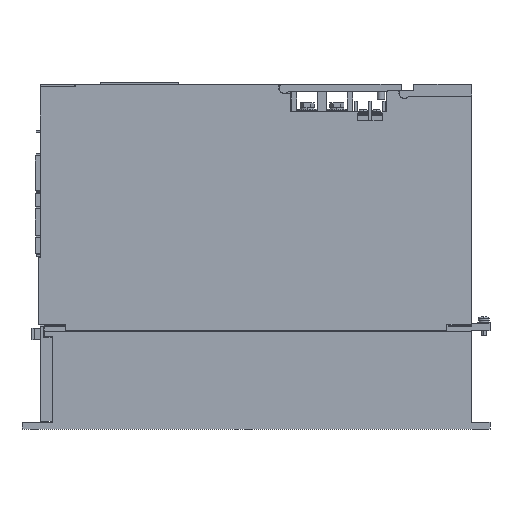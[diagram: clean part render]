
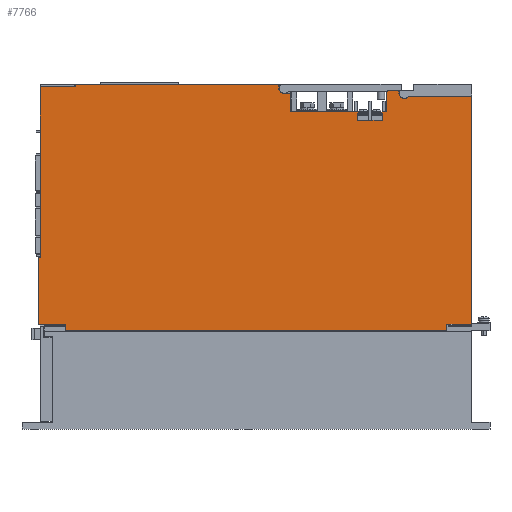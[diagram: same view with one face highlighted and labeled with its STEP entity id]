
A CAD part, left-side view. The second image highlights one B-rep face of the part: STEP entity #7766.
In plain terms, the highlighted planar face has unit normal (-1, 0, 0).
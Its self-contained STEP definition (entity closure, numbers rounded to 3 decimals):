
#3210=DIRECTION('',(0.,-1.,0.));
#3211=VECTOR('',#3210,310.);
#3212=CARTESIAN_POINT('',(-30.,155.,0.));
#3213=LINE('',#3212,#3211);
#3334=DIRECTION('',(0.,0.,1.));
#3335=VECTOR('',#3334,185.3);
#3336=CARTESIAN_POINT('',(-30.,-175.,5.4));
#3337=LINE('',#3336,#3335);
#4285=DIRECTION('',(0.,1.,0.));
#4286=VECTOR('',#4285,20.);
#4287=CARTESIAN_POINT('',(-30.,-102.5,171.));
#4288=LINE('',#4287,#4286);
#4289=DIRECTION('',(0.,0.,1.));
#4290=VECTOR('',#4289,6.8);
#4291=CARTESIAN_POINT('',(-30.,-102.5,171.));
#4292=LINE('',#4291,#4290);
#4293=DIRECTION('',(0.,0.,-1.));
#4294=VECTOR('',#4293,16.4);
#4295=CARTESIAN_POINT('',(-30.,-106.,194.2));
#4296=LINE('',#4295,#4294);
#4297=DIRECTION('',(0.,-1.,0.));
#4298=VECTOR('',#4297,0.8);
#4299=CARTESIAN_POINT('',(-30.,-106.,194.2));
#4300=LINE('',#4299,#4298);
#4301=DIRECTION('',(0.,0.,1.));
#4302=VECTOR('',#4301,1.);
#4303=CARTESIAN_POINT('',(-30.,-106.8,194.2));
#4304=LINE('',#4303,#4302);
#4305=DIRECTION('',(0.,1.,0.));
#4306=VECTOR('',#4305,9.2);
#4307=CARTESIAN_POINT('',(-30.,-116.,195.2));
#4308=LINE('',#4307,#4306);
#4309=DIRECTION('',(0.,0.,1.));
#4310=VECTOR('',#4309,2.);
#4311=CARTESIAN_POINT('',(-30.,-116.,193.2));
#4312=LINE('',#4311,#4310);
#4313=CARTESIAN_POINT('',(-30.,-120.5,193.2));
#4314=DIRECTION('',(1.,0.,0.));
#4315=DIRECTION('',(0.,-0.831,-0.556));
#4316=AXIS2_PLACEMENT_3D('',#4313,#4314,#4315);
#4318=DIRECTION('',(0.,-1.,0.));
#4319=VECTOR('',#4318,20.);
#4320=CARTESIAN_POINT('',(-30.,-155.,5.4));
#4321=LINE('',#4320,#4319);
#4322=DIRECTION('',(0.,0.,1.));
#4323=VECTOR('',#4322,5.4);
#4324=CARTESIAN_POINT('',(-30.,-155.,0.));
#4325=LINE('',#4324,#4323);
#4326=DIRECTION('',(0.,0.,1.));
#4327=VECTOR('',#4326,5.4);
#4328=CARTESIAN_POINT('',(-30.,155.,0.));
#4329=LINE('',#4328,#4327);
#4330=DIRECTION('',(0.,-1.,0.));
#4331=VECTOR('',#4330,22.);
#4332=CARTESIAN_POINT('',(-30.,177.,5.4));
#4333=LINE('',#4332,#4331);
#4334=DIRECTION('',(0.,0.,1.));
#4335=VECTOR('',#4334,138.2);
#4336=CARTESIAN_POINT('',(-30.,175.,59.9));
#4337=LINE('',#4336,#4335);
#4338=DIRECTION('',(0.,-1.,0.));
#4339=VECTOR('',#4338,28.2);
#4340=CARTESIAN_POINT('',(-30.,175.,198.1));
#4341=LINE('',#4340,#4339);
#4342=DIRECTION('',(0.,0.,-1.));
#4343=VECTOR('',#4342,2.1);
#4344=CARTESIAN_POINT('',(-30.,146.8,200.2));
#4345=LINE('',#4344,#4343);
#4346=DIRECTION('',(0.,0.,-1.));
#4347=VECTOR('',#4346,3.);
#4348=CARTESIAN_POINT('',(-30.,-18.5,200.2));
#4349=LINE('',#4348,#4347);
#4350=DIRECTION('',(0.,1.,0.));
#4351=VECTOR('',#4350,5.);
#4352=CARTESIAN_POINT('',(-30.,-28.,192.7));
#4353=LINE('',#4352,#4351);
#4354=DIRECTION('',(0.,0.,-1.));
#4355=VECTOR('',#4354,14.9);
#4356=CARTESIAN_POINT('',(-30.,-28.,192.7));
#4357=LINE('',#4356,#4355);
#4358=DIRECTION('',(0.,0.,1.));
#4359=VECTOR('',#4358,6.8);
#4360=CARTESIAN_POINT('',(-30.,-82.5,171.));
#4361=LINE('',#4360,#4359);
#4382=DIRECTION('',(0.,-1.,0.));
#4383=VECTOR('',#4382,3.5);
#4384=CARTESIAN_POINT('',(-30.,-102.5,177.8));
#4385=LINE('',#4384,#4383);
#4390=DIRECTION('',(0.,-1.,0.));
#4391=VECTOR('',#4390,54.5);
#4392=CARTESIAN_POINT('',(-30.,-28.,177.8));
#4393=LINE('',#4392,#4391);
#4637=CARTESIAN_POINT('',(-30.,-23.,197.2));
#4638=DIRECTION('',(1.,0.,0.));
#4639=DIRECTION('',(0.,0.,-1.));
#4640=AXIS2_PLACEMENT_3D('',#4637,#4638,#4639);
#4662=DIRECTION('',(0.,-1.,0.));
#4663=VECTOR('',#4662,165.3);
#4664=CARTESIAN_POINT('',(-30.,146.8,200.2));
#4665=LINE('',#4664,#4663);
#5184=DIRECTION('',(0.,1.,0.));
#5185=VECTOR('',#5184,50.758);
#5186=CARTESIAN_POINT('',(-30.,-175.,190.7));
#5187=LINE('',#5186,#5185);
#5490=DIRECTION('',(0.,0.,1.));
#5491=VECTOR('',#5490,54.5);
#5492=CARTESIAN_POINT('',(-30.,177.,5.4));
#5493=LINE('',#5492,#5491);
#5506=DIRECTION('',(0.,1.,0.));
#5507=VECTOR('',#5506,2.);
#5508=CARTESIAN_POINT('',(-30.,175.,59.9));
#5509=LINE('',#5508,#5507);
#5518=CARTESIAN_POINT('',(-30.,-175.,190.7));
#5520=VERTEX_POINT('',#5518);
#5538=CARTESIAN_POINT('',(-30.,146.8,200.2));
#5540=VERTEX_POINT('',#5538);
#5542=CARTESIAN_POINT('',(-30.,175.,198.1));
#5543=CARTESIAN_POINT('',(-30.,146.8,198.1));
#5544=VERTEX_POINT('',#5542);
#5545=VERTEX_POINT('',#5543);
#5590=CARTESIAN_POINT('',(-30.,177.,59.9));
#5592=VERTEX_POINT('',#5590);
#5594=CARTESIAN_POINT('',(-30.,175.,59.9));
#5596=VERTEX_POINT('',#5594);
#5910=CARTESIAN_POINT('',(-30.,-155.,0.));
#5912=VERTEX_POINT('',#5910);
#5918=CARTESIAN_POINT('',(-30.,155.,0.));
#5920=VERTEX_POINT('',#5918);
#5926=CARTESIAN_POINT('',(-30.,177.,5.4));
#5927=CARTESIAN_POINT('',(-30.,155.,5.4));
#5928=VERTEX_POINT('',#5926);
#5929=VERTEX_POINT('',#5927);
#5930=CARTESIAN_POINT('',(-30.,-155.,5.4));
#5931=CARTESIAN_POINT('',(-30.,-175.,5.4));
#5932=VERTEX_POINT('',#5930);
#5933=VERTEX_POINT('',#5931);
#5942=CARTESIAN_POINT('',(-30.,-18.5,200.2));
#5944=VERTEX_POINT('',#5942);
#5950=CARTESIAN_POINT('',(-30.,-28.,192.7));
#5952=VERTEX_POINT('',#5950);
#5998=CARTESIAN_POINT('',(-30.,-116.,193.2));
#5999=VERTEX_POINT('',#5998);
#6000=CARTESIAN_POINT('',(-30.,-124.242,190.7));
#6001=VERTEX_POINT('',#6000);
#6002=CARTESIAN_POINT('',(-30.,-116.,195.2));
#6003=VERTEX_POINT('',#6002);
#6042=CARTESIAN_POINT('',(-30.,-23.,192.7));
#6043=VERTEX_POINT('',#6042);
#6044=CARTESIAN_POINT('',(-30.,-18.5,197.2));
#6045=VERTEX_POINT('',#6044);
#6062=CARTESIAN_POINT('',(-30.,-106.,177.8));
#6064=VERTEX_POINT('',#6062);
#6078=CARTESIAN_POINT('',(-30.,-28.,177.8));
#6080=VERTEX_POINT('',#6078);
#6086=CARTESIAN_POINT('',(-30.,-102.5,171.));
#6087=CARTESIAN_POINT('',(-30.,-82.5,171.));
#6088=VERTEX_POINT('',#6086);
#6089=VERTEX_POINT('',#6087);
#6090=CARTESIAN_POINT('',(-30.,-102.5,177.8));
#6091=VERTEX_POINT('',#6090);
#6092=CARTESIAN_POINT('',(-30.,-82.5,177.8));
#6093=VERTEX_POINT('',#6092);
#6158=CARTESIAN_POINT('',(-30.,-106.,194.2));
#6159=CARTESIAN_POINT('',(-30.,-106.8,194.2));
#6160=VERTEX_POINT('',#6158);
#6161=VERTEX_POINT('',#6159);
#6162=CARTESIAN_POINT('',(-30.,-106.8,195.2));
#6163=VERTEX_POINT('',#6162);
#7711=CARTESIAN_POINT('',(-30.,175.,0.));
#7712=DIRECTION('',(-1.,0.,0.));
#7713=DIRECTION('',(0.,-1.,0.));
#7714=AXIS2_PLACEMENT_3D('',#7711,#7712,#7713);
#7715=PLANE('',#7714);
#7716=ORIENTED_EDGE('',*,*,#7670,.F.);
#7718=ORIENTED_EDGE('',*,*,#7717,.T.);
#7720=ORIENTED_EDGE('',*,*,#7719,.T.);
#7722=ORIENTED_EDGE('',*,*,#7721,.F.);
#7724=ORIENTED_EDGE('',*,*,#7723,.T.);
#7726=ORIENTED_EDGE('',*,*,#7725,.T.);
#7728=ORIENTED_EDGE('',*,*,#7727,.F.);
#7730=ORIENTED_EDGE('',*,*,#7729,.F.);
#7732=ORIENTED_EDGE('',*,*,#7731,.F.);
#7734=ORIENTED_EDGE('',*,*,#7733,.F.);
#7735=ORIENTED_EDGE('',*,*,#6443,.F.);
#7736=ORIENTED_EDGE('',*,*,#6379,.F.);
#7737=ORIENTED_EDGE('',*,*,#6332,.F.);
#7738=ORIENTED_EDGE('',*,*,#6297,.F.);
#7739=ORIENTED_EDGE('',*,*,#7586,.T.);
#7740=ORIENTED_EDGE('',*,*,#6411,.F.);
#7742=ORIENTED_EDGE('',*,*,#7741,.T.);
#7744=ORIENTED_EDGE('',*,*,#7743,.F.);
#7745=ORIENTED_EDGE('',*,*,#6721,.T.);
#7747=ORIENTED_EDGE('',*,*,#7746,.T.);
#7749=ORIENTED_EDGE('',*,*,#7748,.F.);
#7751=ORIENTED_EDGE('',*,*,#7750,.T.);
#7753=ORIENTED_EDGE('',*,*,#7752,.T.);
#7755=ORIENTED_EDGE('',*,*,#7754,.F.);
#7757=ORIENTED_EDGE('',*,*,#7756,.F.);
#7759=ORIENTED_EDGE('',*,*,#7758,.T.);
#7761=ORIENTED_EDGE('',*,*,#7760,.T.);
#7763=ORIENTED_EDGE('',*,*,#7762,.F.);
#7764=EDGE_LOOP('',(#7716,#7718,#7720,#7722,#7724,#7726,#7728,#7730,#7732,#7734,
#7735,#7736,#7737,#7738,#7739,#7740,#7742,#7744,#7745,#7747,#7749,#7751,#7753,
#7755,#7757,#7759,#7761,#7763));
#7765=FACE_OUTER_BOUND('',#7764,.F.);
#7766=ADVANCED_FACE('',(#7765),#7715,.T.);
#4317=CIRCLE('',#4316,4.5);
#4641=CIRCLE('',#4640,4.5);
#6297=EDGE_CURVE('',#5920,#5912,#3213,.T.);
#6332=EDGE_CURVE('',#5912,#5932,#4325,.T.);
#6379=EDGE_CURVE('',#5932,#5933,#4321,.T.);
#6411=EDGE_CURVE('',#5928,#5929,#4333,.T.);
#6443=EDGE_CURVE('',#5933,#5520,#3337,.T.);
#6721=EDGE_CURVE('',#5596,#5544,#4337,.T.);
#7586=EDGE_CURVE('',#5920,#5929,#4329,.T.);
#7670=EDGE_CURVE('',#6088,#6089,#4288,.T.);
#7717=EDGE_CURVE('',#6088,#6091,#4292,.T.);
#7719=EDGE_CURVE('',#6091,#6064,#4385,.T.);
#7721=EDGE_CURVE('',#6160,#6064,#4296,.T.);
#7723=EDGE_CURVE('',#6160,#6161,#4300,.T.);
#7725=EDGE_CURVE('',#6161,#6163,#4304,.T.);
#7727=EDGE_CURVE('',#6003,#6163,#4308,.T.);
#7729=EDGE_CURVE('',#5999,#6003,#4312,.T.);
#7731=EDGE_CURVE('',#6001,#5999,#4317,.T.);
#7733=EDGE_CURVE('',#5520,#6001,#5187,.T.);
#7741=EDGE_CURVE('',#5928,#5592,#5493,.T.);
#7743=EDGE_CURVE('',#5596,#5592,#5509,.T.);
#7746=EDGE_CURVE('',#5544,#5545,#4341,.T.);
#7748=EDGE_CURVE('',#5540,#5545,#4345,.T.);
#7750=EDGE_CURVE('',#5540,#5944,#4665,.T.);
#7752=EDGE_CURVE('',#5944,#6045,#4349,.T.);
#7754=EDGE_CURVE('',#6043,#6045,#4641,.T.);
#7756=EDGE_CURVE('',#5952,#6043,#4353,.T.);
#7758=EDGE_CURVE('',#5952,#6080,#4357,.T.);
#7760=EDGE_CURVE('',#6080,#6093,#4393,.T.);
#7762=EDGE_CURVE('',#6089,#6093,#4361,.T.);
